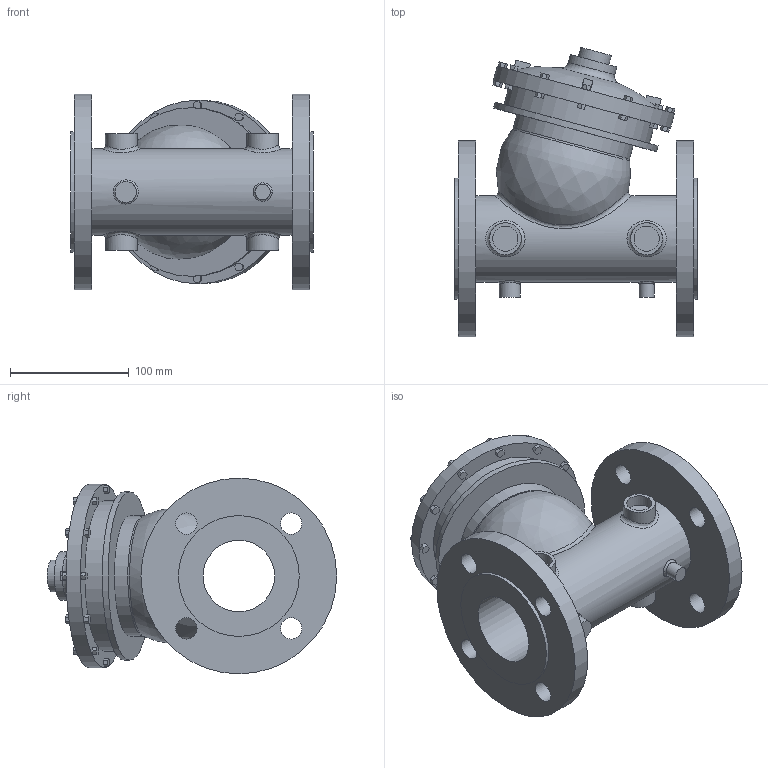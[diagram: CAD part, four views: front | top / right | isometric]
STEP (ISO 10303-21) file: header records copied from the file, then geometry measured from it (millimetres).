
FILE_DESCRIPTION(/* description */ ('VIC FP VALVE PRESSURE RELIEF SERIES 867-7UF (PN16)','CAx-IF Rec.Pracs.---Representation and Presentation of Product Manufacturing Information (PMI)---4.0---2014-10-13'),/* implementation_level */ '2;1');
FILE_NAME(/* name */ 'C:\Series 867-7UF\Series 867-7UF final\pn16\step\Victaulic_FP-Bermad_Valve Pressure Relief_Series 867-7UF (PN16)\Victaulic_FP-Bermad_Valve Pressure Relief_Series 867-7UF (PN16)_2 (50).stp',/* time_stamp */ '2021-09-02T19:16:47+06:00',/* author */ ('kkamble'),/* organization */ ('Victaulic'),/* preprocessor_version */ 'ST-DEVELOPER v17.2',/* originating_system */ 'Autodesk Inventor 2019',/* authorisation */ '');
FILE_SCHEMA (('AP242_MANAGED_MODEL_BASED_3D_ENGINEERING_MIM_LF { 1 0 10303 442 1 1 4 }'));
Length unit declared in the file: inch
Products named in the file (1): 867-7UF-02.0
Bounding box: 204.98 x 244.1 x 165.1 mm (x, y, z)
Volume: 2056134.2 mm3; surface area: 252137.5 mm2
Topology: 1 solids, 1 shells, 256 faces, 650 edges, 441 vertices
Faces by surface type: plane 214, cylinder 31, bspline 9, torus 2
Full cylindrical faces by diameter (mm): 12.7 x1, 17.78 x1, 18 x8, 21.336 x4, 26.67 x1, 26.873 x4, 40.64 x1, 60.325 x1, 73.025 x1, 101.6 x1, 102 x2, 127 x1, 142.24 x1, 154.94 x1, 165.1 x2
Entity records: 9188 total; most frequent: CARTESIAN_POINT 2514, ORIENTED_EDGE 1312, DIRECTION 1237, EDGE_CURVE 656, LINE 515, VECTOR 515, VERTEX_POINT 447, AXIS2_PLACEMENT_3D 361
